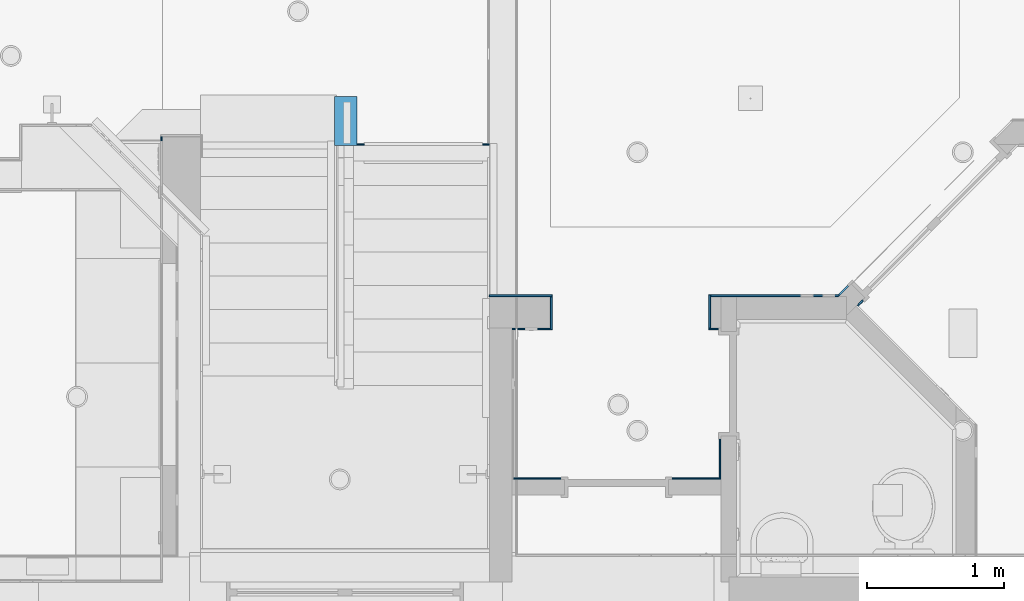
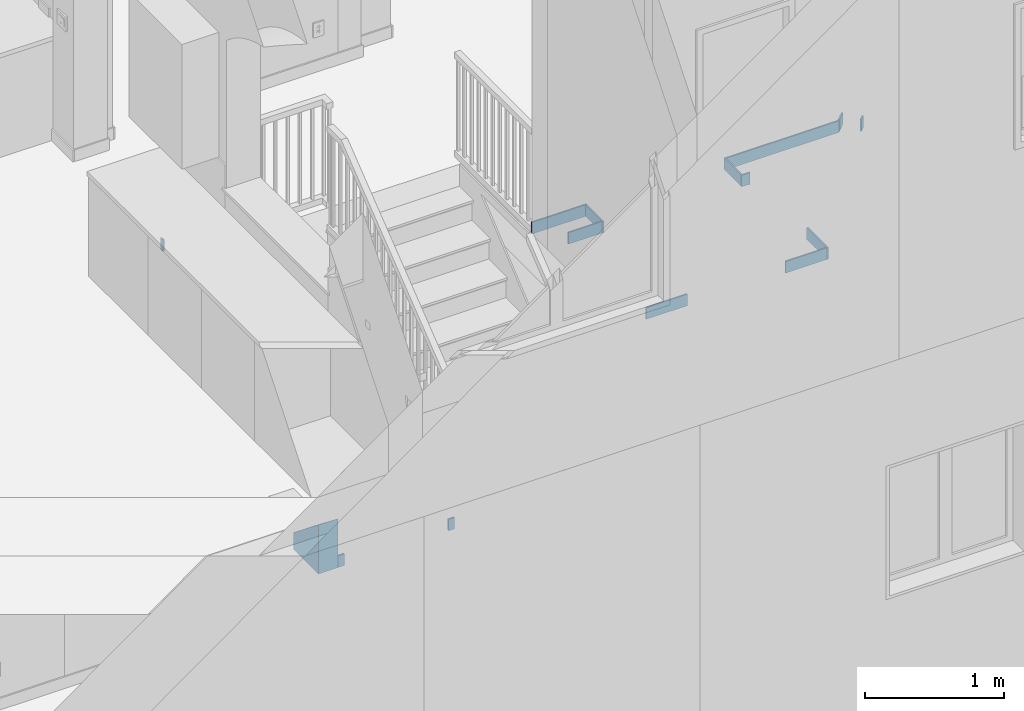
# One storey, part 16 of 60: 15 walls, 1 opening.
"""IFC2X3 building model written with IfcOpenShell, lengths in feet."""

from ifc_helpers import new_model, entity, si_unit, converted_unit, direction, frame, frame_2d, origin, place, context, subcontext, project, spatial, polyline, rectangle, outline, extrude, material, layer, layer_set, layer_usage, type_object, element, save


model = new_model("IFC2X3")

# Units and contexts
model_context = context("Model", 3, precision=0.0001, world=origin(), true_north=direction((6.123031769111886e-17, 1.0)))
plan_context = context("Plan", 3, precision=0.0001, world=origin(), true_north=direction((6.123031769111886e-17, 1.0)))
body_context = subcontext(model_context, "Body", "Model", "MODEL_VIEW")
ifc_project = project(units=[converted_unit("LENGTHUNIT", "FOOT", entity("IfcLengthMeasure", 0.3048), si_unit("LENGTHUNIT", "METRE"), dimensions=[1, 0, 0, 0, 0, 0, 0]), converted_unit("AREAUNIT", "SQUARE FOOT", entity("IfcAreaMeasure", 0.09290304), si_unit("AREAUNIT", "SQUARE_METRE"), dimensions=[2, 0, 0, 0, 0, 0, 0]), converted_unit("PLANEANGLEUNIT", "DEGREE", entity("IfcPlaneAngleMeasure", 0.017453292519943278), si_unit("PLANEANGLEUNIT", "RADIAN"), dimensions=[0, 0, 0, 0, 0, 0, 0])], contexts=[model_context, plan_context])

# Site, building, storey
site_placement = place(None, origin())
site = spatial("IfcSite", under=ifc_project, at=site_placement, Name="Default", CompositionType="ELEMENT")
building_placement = place(site_placement, origin())
building = spatial("IfcBuilding", under=site, at=building_placement, CompositionType="ELEMENT")
storey_placement = place(building_placement, origin())
storey = spatial("IfcBuildingStorey", under=building, at=storey_placement, Name="First floor", CompositionType="ELEMENT", Elevation=0.0)

# Wall, opening
ifc_material = material(Name="Default New Material")
ifc_layer_1 = layer(ifc_material, 0.5416666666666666)
ifc_layer_set_1 = layer_set([ifc_layer_1], Name="Basic Wall:Wall_6.5\"")
ifc_layer_usage_1 = layer_usage(ifc_layer_set_1, "AXIS2", "NEGATIVE", 0.2708333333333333)
wall_type_1 = type_object("IfcWallType", Name="Basic Wall:Wall_6.5\"", PredefinedType="STANDARD", material=ifc_layer_set_1)
wall_1_placement = place(storey_placement, frame((16.93749996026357, 12.166666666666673, 0.0), z_axis=(0.0, 0.0, 1.0), x_axis=(0.0, -1.0, 0.0)))
wall_1 = element("IfcWallStandardCase", 1, at=wall_1_placement, inside=storey, type_object=wall_type_1, material=ifc_layer_usage_1, Name="Basic Wall:Wall_6.5\"", ObjectType="Basic Wall:Wall_6.5\"", context=body_context, shape_type="SweptSolid", body=[
    extrude(rectangle(XDim=1.166666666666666, YDim=0.5416666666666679, at=frame_2d((0.583333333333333, -1.7763568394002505e-15), x_axis=(-1.0, 0.0))), origin(), (0.0, 0.0, 1.0), 1.4057402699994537),
])
opening_placement = place(wall_1_placement, frame((12.166666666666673, -16.93749996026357, 0.0)))
element("IfcOpeningElement", 2, at=opening_placement, cuts=wall_1, Name="Basic Wall:Wall_6.5\"", ObjectType="Opening", context=body_context, shape_type="SweptSolid", body=[
    extrude(outline(polyline([(-0.34297952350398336, -0.5074465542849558), (1.1415450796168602, -0.5074465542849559), (0.059150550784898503, 0.8681634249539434), (-0.8577161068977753, 0.1467296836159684), (-0.34297952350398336, -0.5074465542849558)])), frame((-11.583333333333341, 16.666666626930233, 1.592446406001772), z_axis=(0.0, 1.0, 0.0), x_axis=(-0.7858857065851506, 0.0, -0.6183717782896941)), (0.0, 0.0, 1.0), 0.5416666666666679),
])

# Walls
ifc_layer_2 = layer(ifc_material, 0.041666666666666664)
ifc_layer_set_2 = layer_set([ifc_layer_2], Name="Basic Wall:Wall Border_T1")
ifc_layer_usage_2 = layer_usage(ifc_layer_set_2, "AXIS2", "POSITIVE", -0.020833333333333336)
wall_type_2 = type_object("IfcWallType", Name="Basic Wall:Wall Border_T1", PredefinedType="STANDARD", material=ifc_layer_set_2)
wall_2_placement = place(storey_placement, frame((20.374999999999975, 11.020833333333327, 0.0), z_axis=(0.0, 0.0, 1.0), x_axis=(-1.0, 0.0, 0.0)))
element("IfcWallStandardCase", 3, at=wall_2_placement, inside=storey, type_object=wall_type_2, material=ifc_layer_usage_2, Name="Basic Wall:Wall Border_T1", ObjectType="Basic Wall:Wall Border_T1", context=body_context, shape_type="SweptSolid", body=[
    extrude(rectangle(XDim=0.16666666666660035, YDim=0.04166666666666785, at=frame_2d((0.08333333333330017, 0.0), x_axis=(-1.0, 0.0))), origin(), (0.0, 0.0, 1.0), 0.3333333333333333),
])
ifc_layer_usage_3 = layer_usage(ifc_layer_set_2, "AXIS2", "POSITIVE", -0.020833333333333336)
wall_3_placement = place(storey_placement, frame((17.375000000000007, 11.020833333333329, 0.0), z_axis=(0.0, 0.0, 1.0), x_axis=(-1.0, 0.0, 0.0)))
element("IfcWallStandardCase", 4, at=wall_3_placement, inside=storey, type_object=wall_type_2, material=ifc_layer_usage_3, Name="Basic Wall:Wall Border_T1", ObjectType="Basic Wall:Wall Border_T1", context=body_context, shape_type="SweptSolid", body=[
    extrude(rectangle(XDim=0.166666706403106, YDim=0.04166666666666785, at=frame_2d((0.083333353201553, 0.0), x_axis=(-1.0, 0.0))), origin(), (0.0, 0.0, 1.0), 0.3333333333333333),
])
ifc_layer_usage_4 = layer_usage(ifc_layer_set_2, "AXIS2", "NEGATIVE", 0.020833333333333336)
wall_4_placement = place(storey_placement, frame((12.520833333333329, 11.104166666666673, 10.666666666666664), z_axis=(0.0, 0.0, 1.0), x_axis=(0.0, 1.0, 0.0)))
element("IfcWallStandardCase", 5, at=wall_4_placement, inside=storey, type_object=wall_type_2, material=ifc_layer_usage_4, Name="Basic Wall:Wall Border_T1", ObjectType="Basic Wall:Wall Border_T1", context=body_context, shape_type="SweptSolid", body=[
    extrude(rectangle(XDim=0.10382150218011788, YDim=0.04166666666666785, at=frame_2d((0.05191075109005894, 0.0), x_axis=(-1.0, 0.0))), origin(), (0.0, 0.0, 1.0), 0.3333333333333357),
])
ifc_layer_usage_5 = layer_usage(ifc_layer_set_2, "AXIS2", "NEGATIVE", 0.020833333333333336)
wall_5_placement = place(storey_placement, frame((20.374999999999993, 7.395833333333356, 10.666666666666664)))
element("IfcWallStandardCase", 6, at=wall_5_placement, inside=storey, type_object=wall_type_2, material=ifc_layer_usage_5, Name="Basic Wall:Wall Border_T1", ObjectType="Basic Wall:Wall Border_T1", context=body_context, shape_type="SweptSolid", body=[
    extrude(rectangle(XDim=1.5000000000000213, YDim=0.041666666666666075, at=frame_2d((0.7500000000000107, -1.942890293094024e-16), x_axis=(-1.0, 0.0))), origin(), (0.0, 0.0, 1.0), 0.3333333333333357),
])
ifc_layer_usage_6 = layer_usage(ifc_layer_set_2, "AXIS2", "NEGATIVE", 0.020833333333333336)
wall_6_placement = place(storey_placement, frame((21.854166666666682, 7.3750000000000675, 10.666666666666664), z_axis=(0.0, 0.0, 1.0), x_axis=(0.0, -1.0, 0.0)))
element("IfcWallStandardCase", 7, at=wall_6_placement, inside=storey, type_object=wall_type_2, material=ifc_layer_usage_6, Name="Basic Wall:Wall Border_T1", ObjectType="Basic Wall:Wall Border_T1", context=body_context, shape_type="SweptSolid", body=[
    extrude(rectangle(XDim=0.7916666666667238, YDim=0.0416666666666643, at=frame_2d((0.3958333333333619, -1.4779844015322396e-15), x_axis=(-1.0, 0.0))), origin(), (0.0, 0.0, 1.0), 0.3333333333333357),
])
ifc_layer_usage_7 = layer_usage(ifc_layer_set_2, "AXIS2", "NEGATIVE", 0.020833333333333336)
wall_7_placement = place(storey_placement, frame((21.833333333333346, 6.604166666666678, 10.666666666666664), z_axis=(0.0, 0.0, 1.0), x_axis=(-1.0, 0.0, 0.0)))
element("IfcWallStandardCase", 8, at=wall_7_placement, inside=storey, type_object=wall_type_2, material=ifc_layer_usage_7, Name="Basic Wall:Wall Border_T1", ObjectType="Basic Wall:Wall Border_T1", context=body_context, shape_type="SweptSolid", body=[
    extrude(rectangle(XDim=0.9166666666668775, YDim=0.041666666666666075, at=frame_2d((0.45833333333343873, 1.717376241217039e-16), x_axis=(-1.0, 0.0))), origin(), (0.0, 0.0, 1.0), 0.3333333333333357),
])
ifc_layer_usage_8 = layer_usage(ifc_layer_set_2, "AXIS2", "NEGATIVE", 0.020833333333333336)
wall_8_placement = place(storey_placement, frame((20.95833333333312, 3.020833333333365, 10.666666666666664)))
element("IfcWallStandardCase", 9, at=wall_8_placement, inside=storey, type_object=wall_type_2, material=ifc_layer_usage_8, Name="Basic Wall:Wall Border_T1", ObjectType="Basic Wall:Wall Border_T1", context=body_context, shape_type="SweptSolid", body=[
    extrude(rectangle(XDim=1.1250000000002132, YDim=0.04166666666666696, at=frame_2d((0.5625000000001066, -6.418476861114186e-17), x_axis=(-1.0, 0.0))), origin(), (0.0, 0.0, 1.0), 0.3333333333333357),
])
ifc_layer_usage_9 = layer_usage(ifc_layer_set_2, "AXIS2", "NEGATIVE", 0.020833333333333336)
wall_9_placement = place(storey_placement, frame((25.874999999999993, 3.0208333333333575, 10.666666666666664), z_axis=(0.0, 0.0, 1.0), x_axis=(-1.0, 0.0, 0.0)))
element("IfcWallStandardCase", 10, at=wall_9_placement, inside=storey, type_object=wall_type_2, material=ifc_layer_usage_9, Name="Basic Wall:Wall Border_T1", ObjectType="Basic Wall:Wall Border_T1", context=body_context, shape_type="SweptSolid", body=[
    extrude(rectangle(XDim=1.1249999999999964, YDim=0.04166666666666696, at=frame_2d((0.5624999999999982, 0.0), x_axis=(-1.0, 0.0))), origin(), (0.0, 0.0, 1.0), 0.3333333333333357),
])
ifc_layer_usage_10 = layer_usage(ifc_layer_set_2, "AXIS2", "NEGATIVE", 0.020833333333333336)
wall_10_placement = place(storey_placement, frame((25.854166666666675, 6.6041666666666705, 10.666666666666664), z_axis=(0.0, 0.0, 1.0), x_axis=(-1.0, 0.0, 0.0)))
element("IfcWallStandardCase", 11, at=wall_10_placement, inside=storey, type_object=wall_type_2, material=ifc_layer_usage_10, Name="Basic Wall:Wall Border_T1", ObjectType="Basic Wall:Wall Border_T1", context=body_context, shape_type="SweptSolid", body=[
    extrude(rectangle(XDim=0.2291666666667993, YDim=0.041666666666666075, at=frame_2d((0.11458333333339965, 0.0), x_axis=(-1.0, 0.0))), origin(), (0.0, 0.0, 1.0), 0.3333333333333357),
])
ifc_layer_usage_11 = layer_usage(ifc_layer_set_2, "AXIS2", "NEGATIVE", 0.020833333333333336)
wall_11_placement = place(storey_placement, frame((25.645833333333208, 6.625000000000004, 10.666666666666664), z_axis=(0.0, 0.0, 1.0), x_axis=(0.0, 1.0, 0.0)))
element("IfcWallStandardCase", 12, at=wall_11_placement, inside=storey, type_object=wall_type_2, material=ifc_layer_usage_11, Name="Basic Wall:Wall Border_T1", ObjectType="Basic Wall:Wall Border_T1", context=body_context, shape_type="SweptSolid", body=[
    extrude(rectangle(XDim=0.7916666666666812, YDim=0.0416666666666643, at=frame_2d((0.3958333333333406, 4.0245584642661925e-16), x_axis=(-1.0, 0.0))), origin(), (0.0, 0.0, 1.0), 0.3333333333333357),
])
ifc_layer_usage_12 = layer_usage(ifc_layer_set_2, "AXIS2", "NEGATIVE", 0.020833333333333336)
wall_12_placement = place(storey_placement, frame((25.66666666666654, 7.395833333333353, 10.666666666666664)))
element("IfcWallStandardCase", 13, at=wall_12_placement, inside=storey, type_object=wall_type_2, material=ifc_layer_usage_12, Name="Basic Wall:Wall Border_T1", ObjectType="Basic Wall:Wall Border_T1", context=body_context, shape_type="SweptSolid", body=[
    extrude(outline(polyline([(3.061961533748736, -0.02083333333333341), (3.1033905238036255, 0.020833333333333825), (3.0446327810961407, 0.02083333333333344), (0.0, 0.020833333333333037), (0.0, -0.020833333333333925), (3.061961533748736, -0.02083333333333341)])), origin(), (0.0, 0.0, 1.0), 0.3333333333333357),
])
ifc_layer_usage_13 = layer_usage(ifc_layer_set_2, "AXIS2", "NEGATIVE", 0.020833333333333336)
wall_13_placement = place(storey_placement, frame((28.958533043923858, 7.6357712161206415, 10.666666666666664), z_axis=(0.0, 0.0, 1.0), x_axis=(-0.7050813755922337, -0.7091264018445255, 0.0)))
element("IfcWallStandardCase", 14, at=wall_13_placement, inside=storey, type_object=wall_type_2, material=ifc_layer_usage_13, Name="Basic Wall:Wall Border_T1", ObjectType="Basic Wall:Wall Border_T1", context=body_context, shape_type="SweptSolid", body=[
    extrude(outline(polyline([(0.32969262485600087, -0.020833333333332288), (0.28826363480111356, 0.020833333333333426), (0.0, 0.020833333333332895), (0.0, -0.020833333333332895), (0.32969262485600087, -0.020833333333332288)])), origin(), (0.0, 0.0, 1.0), 0.3333333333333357),
])
ifc_layer_usage_14 = layer_usage(ifc_layer_set_2, "AXIS2", "POSITIVE", -0.020833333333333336)
wall_14_placement = place(storey_placement, frame((29.190538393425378, 7.159969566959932, 10.666666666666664), z_axis=(0.0, 0.0, 1.0), x_axis=(0.7050813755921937, 0.7091264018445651, 0.0)))
element("IfcWallStandardCase", 15, at=wall_14_placement, inside=storey, type_object=wall_type_2, material=ifc_layer_usage_14, Name="Basic Wall:Wall Border_T1", ObjectType="Basic Wall:Wall Border_T1", context=body_context, shape_type="SweptSolid", body=[
    extrude(outline(polyline([(0.17386104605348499, -0.020833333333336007), (0.17386104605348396, 0.020833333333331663), (0.00011917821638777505, 0.02083333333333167), (0.0, -0.02083333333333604), (0.17386104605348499, -0.020833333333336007)])), origin(), (0.0, 0.0, 1.0), 0.3333333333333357),
])
ifc_layer_usage_15 = layer_usage(ifc_layer_set_2, "AXIS2", "POSITIVE", -0.020833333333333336)
wall_15_placement = place(storey_placement, frame((25.89583333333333, 3.958333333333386, 10.666666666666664), z_axis=(0.0, 0.0, 1.0), x_axis=(0.0, -1.0, 0.0)))
element("IfcWallStandardCase", 16, at=wall_15_placement, inside=storey, type_object=wall_type_2, material=ifc_layer_usage_15, Name="Basic Wall:Wall Border_T1", ObjectType="Basic Wall:Wall Border_T1", context=body_context, shape_type="SweptSolid", body=[
    extrude(rectangle(XDim=0.9583333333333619, YDim=0.0416666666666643, at=frame_2d((0.47916666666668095, 0.0), x_axis=(-1.0, 0.0))), origin(), (0.0, 0.0, 1.0), 0.3333333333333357),
])

save(model, "model.ifc")
